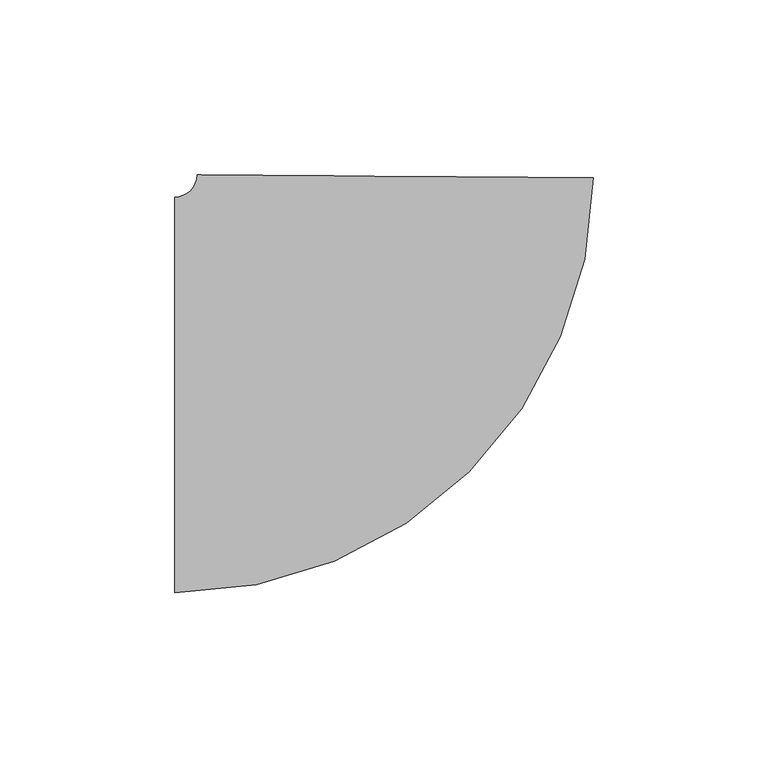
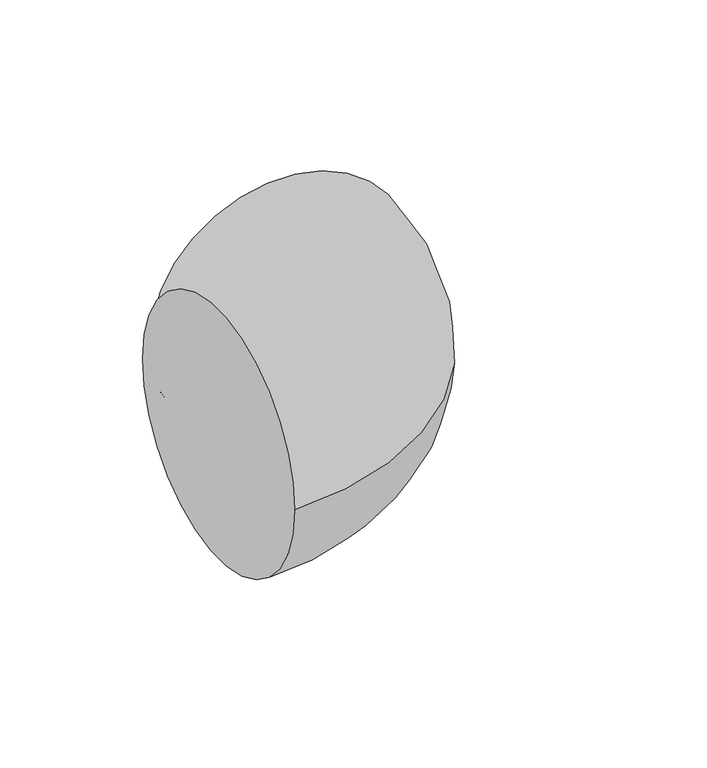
"""IFC4 building model written with IfcOpenShell, lengths in millimetres: pipe fitting geometry, M_Codo - Genérico : Estándar."""

from ifc_helpers import new_model, si_unit, point, frame, origin, place, context, project, spatial, circle_curve, ellipse_curve, trimmed, source, transform, mapped, element, save
from ifc_brep_helpers import plane_surface, revolved_surface, advanced_brep


def pipe_fitting_de9ed0ee(model_context):
    return source(origin(), model_context, "Body", "AdvancedBrep", [
        advanced_brep(
        [(-62.4672621, -56.5875, 0.0), (-62.4672621, 56.5875, 0.0), (57.0543767, 62.0411323, 0.0), (-56.1174407, 62.8898787, 0.0)],
        [
            (0, 1, circle_curve(frame((-62.4672621, 0.0, 0.0), z_axis=(-1.0, 0.0, 0.0), x_axis=(0.0, 1.0, 0.0)), 56.5875)),
            (1, 0, circle_curve(frame((-62.4672621, 0.0, 0.0), z_axis=(-1.0, 0.0, 0.0), x_axis=(0.0, 1.0, 0.0)), 56.5875)),
            (2, 3, circle_curve(frame((0.468468, 62.4655055, 0.0), z_axis=(0.007499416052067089, 0.9999718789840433, 0.0), x_axis=(-0.9999718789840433, 0.007499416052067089, 0.0)), 56.5875)),
            (3, 2, circle_curve(frame((0.468468, 62.4655055, 0.0), z_axis=(0.007499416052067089, 0.9999718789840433, 0.0), x_axis=(-0.9999718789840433, 0.007499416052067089, 0.0)), 56.5875)),
            (3, 1, circle_curve(frame((-62.4672621, 62.9375, 0.0), z_axis=(0.0, 0.0, -1.0), x_axis=(0.0, -1.0, 0.0)), 6.35)),
            (0, 2, circle_curve(frame((-62.4672621, 62.9375, 0.0), z_axis=(0.0, 0.0, 1.0), x_axis=(0.0, -1.0, 0.0)), 119.525)),
        ],
        [
            plane_surface(frame((-62.4672621, 0.0, 0.0), z_axis=(-1.0, 0.0, 0.0), x_axis=(0.0, 0.0, 1.0))),
            plane_surface(frame((0.468468, 62.4655055, 0.0), z_axis=(0.007499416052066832, 0.9999718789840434, 0.0), x_axis=(0.0, 0.0, 1.0))),
            revolved_surface(trimmed(ellipse_curve(frame((-62.4672621, 0.0, 0.0), z_axis=(-1.0, 0.0, 0.0), x_axis=(0.0, 1.0, 0.0)), 56.5875, 56.5875), [point((-62.4672621, -56.5875, 0.0))], [point((-62.4672621, 56.5875, 0.0))], True, "CARTESIAN"), (-62.4672621, 62.9375, 0.0), (0.0, 0.0, 1.0)),
            revolved_surface(trimmed(ellipse_curve(frame((-62.4672621, 0.0, 0.0), z_axis=(-1.0, 0.0, 0.0), x_axis=(0.0, 1.0, 0.0)), 56.5875, 56.5875), [point((-62.4672621, 56.5875, 0.0))], [point((-62.4672621, -56.5875, 0.0))], True, "CARTESIAN"), (-62.4672621, 62.9375, 0.0), (0.0, 0.0, 1.0)),
        ],
        [
            (0, [[1, 2]]),
            (1, [[3, 4]]),
            (2, [[5, -1, 6, -4]]),
            (3, [[-6, -2, -5, -3]]),
        ],
    ),
    ])


if __name__ == "__main__":
    model = new_model("IFC4")
    model_context = context("Model", 3, world=origin())
    ifc_project = project(units=[si_unit("LENGTHUNIT", "METRE", prefix="MILLI")], contexts=[model_context])
    site = spatial("IfcSite", under=ifc_project)
    building = spatial("IfcBuilding", under=site)
    placement = place(None, origin())
    pipe_fitting_shape = pipe_fitting_de9ed0ee(model_context)
    element("IfcPipeFitting", 1, ObjectType="M_Codo - Genérico : Estándar", at=placement, inside=building, context=model_context, shape_type="MappedRepresentation", body=[
        mapped(pipe_fitting_shape, transform((0.0, 0.0, 0.0), x_axis=(1.0, 0.0, 0.0), y_axis=(0.0, 1.0, 0.0), z_axis=(0.0, 0.0, 1.0))),
    ])
    save(model, "model.ifc")
